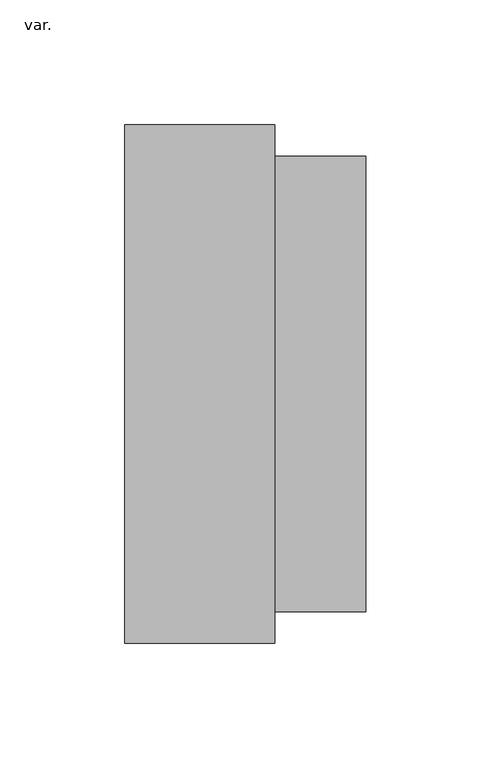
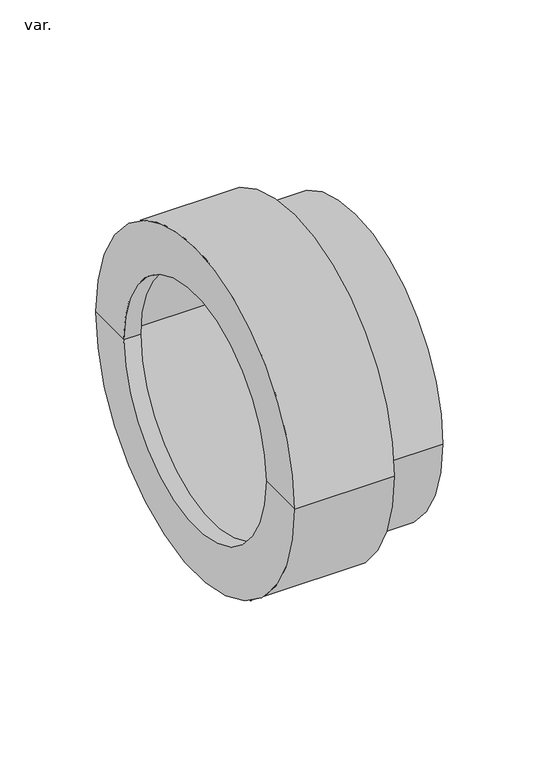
"""IFC4 building model written with IfcOpenShell, lengths in millimetres: pipe fitting geometry, PIF_PVCBelowGround_Transition_Concrete_Sleeve_Gasket_Wavin : var.."""

from ifc_helpers import new_model, si_unit, frame, origin, place, context, project, spatial, polyline, circle_curve, source, transform, mapped, element, save
from ifc_brep_helpers import plane_surface, cylinder_surface, revolved_surface, advanced_brep


def var_eae17cc3(model_context):
    return source(origin(), model_context, "Body", "AdvancedBrep", [
        advanced_brep(
        [(50.0, -91.2, 0.0), (50.0, 91.2, 0.0), (86.5, 91.2, 0.0), (86.5, -91.2, 0.0), (50.0, -103.7, 0.0), (50.0, 103.7, 0.0), (-10.0, -103.7, 0.0), (-10.0, 103.7, 0.0), (-10.0, -74.35, 0.0), (-10.0, 74.35, 0.0), (0.0, -74.35, 0.0), (0.0, 74.35, 0.0), (0.0, -80.55, 0.0), (0.0, 80.55, 0.0), (86.5, -80.55, 0.0), (86.5, 80.55, 0.0)],
        [
            (0, 1, circle_curve(frame((50.0, 0.0, 0.0), z_axis=(1.0, 0.0, 0.0), x_axis=(0.0, 1.0, 0.0)), 91.2)),
            (1, 2),
            (2, 3, circle_curve(frame((86.5, 0.0, 0.0), z_axis=(-1.0, 0.0, 0.0), x_axis=(0.0, 1.0, 0.0)), 91.2)),
            (3, 0),
            (1, 0, circle_curve(frame((50.0, 0.0, 0.0), z_axis=(1.0, 0.0, 0.0), x_axis=(0.0, 1.0, 0.0)), 91.2)),
            (3, 2, circle_curve(frame((86.5, 0.0, 0.0), z_axis=(-1.0, 0.0, 0.0), x_axis=(0.0, 1.0, 0.0)), 91.2)),
            (4, 5, circle_curve(frame((50.0, 0.0, 0.0), z_axis=(1.0, 0.0, 0.0), x_axis=(0.0, 1.0, 0.0)), 103.7)),
            (5, 1),
            (0, 4),
            (5, 4, circle_curve(frame((50.0, 0.0, 0.0), z_axis=(1.0, 0.0, 0.0), x_axis=(0.0, 1.0, 0.0)), 103.7)),
            (6, 7, circle_curve(frame((-10.0, 0.0, 0.0), z_axis=(1.0, 0.0, 0.0), x_axis=(0.0, 1.0, 0.0)), 103.7)),
            (7, 5),
            (4, 6),
            (7, 6, circle_curve(frame((-10.0, 0.0, 0.0), z_axis=(1.0, 0.0, 0.0), x_axis=(0.0, 1.0, 0.0)), 103.7)),
            (8, 9, circle_curve(frame((-10.0, 0.0, 0.0), z_axis=(1.0, 0.0, 0.0), x_axis=(0.0, 1.0, 0.0)), 74.35)),
            (9, 7),
            (6, 8),
            (9, 8, circle_curve(frame((-10.0, 0.0, 0.0), z_axis=(1.0, 0.0, 0.0), x_axis=(0.0, 1.0, 0.0)), 74.35)),
            (10, 11, circle_curve(frame((0.0, 0.0, 0.0), z_axis=(1.0, 0.0, 0.0), x_axis=(0.0, 1.0, 0.0)), 74.35)),
            (11, 9),
            (8, 10),
            (11, 10, circle_curve(frame((0.0, 0.0, 0.0), z_axis=(1.0, 0.0, 0.0), x_axis=(0.0, 1.0, 0.0)), 74.35)),
            (12, 13, circle_curve(frame((0.0, 0.0, 0.0), z_axis=(1.0, 0.0, 0.0), x_axis=(0.0, 1.0, 0.0)), 80.55)),
            (13, 11),
            (10, 12),
            (13, 12, circle_curve(frame((0.0, 0.0, 0.0), z_axis=(1.0, 0.0, 0.0), x_axis=(0.0, 1.0, 0.0)), 80.55)),
            (14, 15, circle_curve(frame((86.5, 0.0, 0.0), z_axis=(1.0, 0.0, 0.0), x_axis=(0.0, 1.0, 0.0)), 80.55)),
            (15, 13),
            (12, 14),
            (15, 14, circle_curve(frame((86.5, 0.0, 0.0), z_axis=(1.0, 0.0, 0.0), x_axis=(0.0, 1.0, 0.0)), 80.55)),
            (2, 15),
            (14, 3),
        ],
        [
            cylinder_surface(frame((-91.5986768, 0.0, 0.0), z_axis=(-1.0, 0.0, 0.0), x_axis=(0.0, 1.0, 0.0)), 91.2),
            plane_surface(frame((50.0, 0.0, 0.0), z_axis=(1.0, 0.0, 0.0), x_axis=(0.0, 1.0, 0.0))),
            cylinder_surface(frame((-91.5986768, 0.0, 0.0), z_axis=(-1.0, 0.0, 0.0), x_axis=(0.0, 1.0, 0.0)), 103.7),
            plane_surface(frame((-10.0, 0.0, 0.0), z_axis=(-1.0, 0.0, 0.0), x_axis=(0.0, 1.0, 0.0))),
            revolved_surface(polyline([(-10.0, 74.35, 0.0), (0.0, 74.35, 0.0)]), (-91.5986768, 0.0, 0.0), (-1.0, 0.0, 0.0)),
            plane_surface(frame((0.0, 0.0, 0.0), z_axis=(1.0, 0.0, 0.0), x_axis=(0.0, 1.0, 0.0))),
            revolved_surface(polyline([(0.0, 80.55, 0.0), (86.50000000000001, 80.55, 0.0)]), (-91.5986768, 0.0, 0.0), (-1.0, 0.0, 0.0)),
            plane_surface(frame((86.5, 0.0, 0.0), z_axis=(1.0, 0.0, 0.0), x_axis=(0.0, 1.0, 0.0))),
        ],
        [
            (0, [[1, 2, 3, 4]]),
            (0, [[5, -4, 6, -2]]),
            (1, [[7, 8, -1, 9]]),
            (1, [[10, -9, -5, -8]]),
            (2, [[11, 12, -7, 13]]),
            (2, [[14, -13, -10, -12]]),
            (3, [[15, 16, -11, 17]]),
            (3, [[18, -17, -14, -16]]),
            (4, [[19, 20, -15, 21]]),
            (4, [[22, -21, -18, -20]]),
            (5, [[23, 24, -19, 25]]),
            (5, [[26, -25, -22, -24]]),
            (6, [[27, 28, -23, 29]]),
            (6, [[30, -29, -26, -28]]),
            (7, [[-3, 31, -27, 32]]),
            (7, [[-6, -32, -30, -31]]),
        ],
    ),
    ])


if __name__ == "__main__":
    model = new_model("IFC4")
    model_context = context("Model", 3, world=origin())
    ifc_project = project(units=[si_unit("LENGTHUNIT", "METRE", prefix="MILLI")], contexts=[model_context])
    site = spatial("IfcSite", under=ifc_project)
    building = spatial("IfcBuilding", under=site)
    placement = place(None, origin())
    var_shape = var_eae17cc3(model_context)
    element("IfcPipeFitting", 1, ObjectType="PIF_PVCBelowGround_Transition_Concrete_Sleeve_Gasket_Wavin : var.", at=placement, inside=building, context=model_context, shape_type="MappedRepresentation", body=[
        mapped(var_shape, transform((0.0, 0.0, 0.0), x_axis=(1.0, 0.0, 0.0), y_axis=(0.0, 1.0, 0.0), z_axis=(0.0, 0.0, 1.0))),
    ])
    save(model, "model.ifc")
